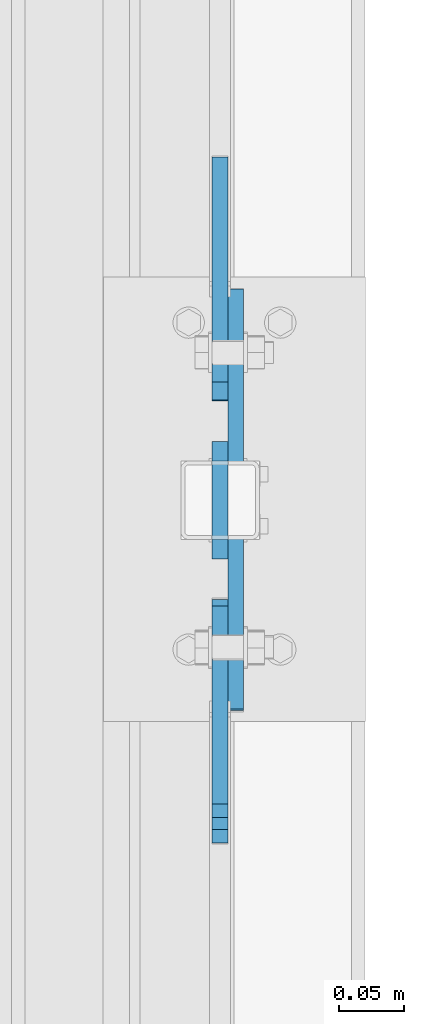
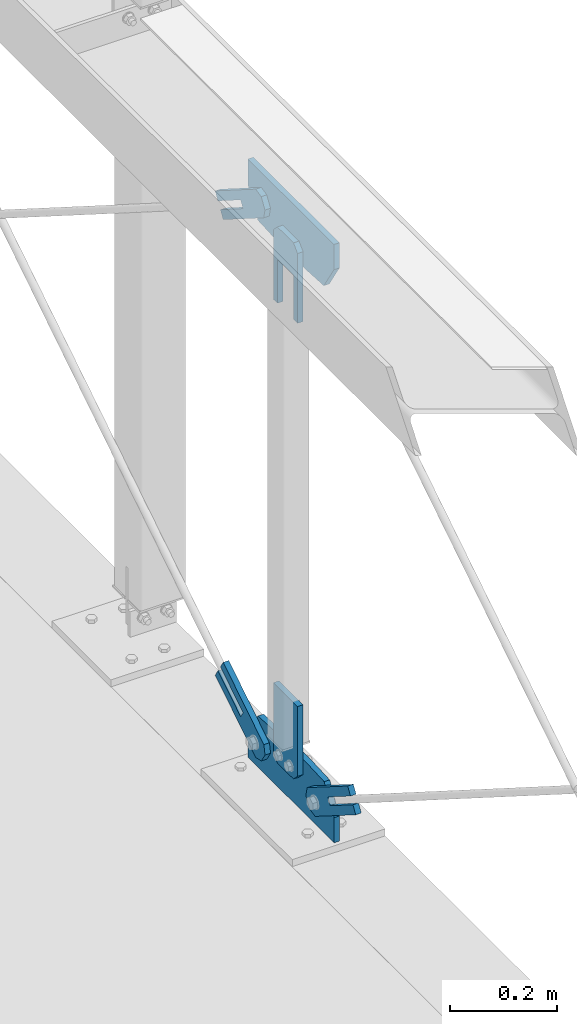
# One storey, part 169 of 271: 7 plates, 6 elements without a shape of their own.
"""IFC2X3 building model written with IfcOpenShell, lengths in millimetres."""

from ifc_helpers import new_model, si_unit, frame, origin_with_axes, place, context, subcontext, project, spatial, polyline, outline, extrude, material, type_object, element, aggregate, save


model = new_model("IFC2X3")

# Units and contexts
model_context = context("Model", 3, precision=1e-05, world=origin_with_axes())
body_context = subcontext(model_context, "Body", "Model", "MODEL_VIEW")
ifc_project = project(units=[si_unit("LENGTHUNIT", "METRE", prefix="MILLI"), si_unit("AREAUNIT", "SQUARE_METRE"), si_unit("VOLUMEUNIT", "CUBIC_METRE"), si_unit("MASSUNIT", "GRAM", prefix="KILO"), si_unit("TIMEUNIT", "SECOND"), si_unit("PLANEANGLEUNIT", "RADIAN"), si_unit("SOLIDANGLEUNIT", "STERADIAN"), si_unit("THERMODYNAMICTEMPERATUREUNIT", "DEGREE_CELSIUS"), si_unit("LUMINOUSINTENSITYUNIT", "LUMEN")], contexts=[model_context])

# Site, building, storey
site_placement = place(None, origin_with_axes())
site = spatial("IfcSite", under=ifc_project, at=site_placement, Name="Undefined", CompositionType="ELEMENT")
building_placement = place(site_placement, origin_with_axes())
building = spatial("IfcBuilding", under=site, at=building_placement, Name="Undefined", CompositionType="ELEMENT")
storey_placement = place(building_placement, origin_with_axes())
storey = spatial("IfcBuildingStorey", under=building, at=storey_placement, Name="Undefined", CompositionType="ELEMENT", Elevation=0.0)

# Assembly, plate
assembly_1_placement = place(storey_placement, origin_with_axes())
assembly_1 = element("IfcElementAssembly", 1, at=assembly_1_placement, inside=storey, AssemblyPlace="NOTDEFINED", PredefinedType="RIGID_FRAME")
ifc_material = material(Name="STEEL/S355JR")
plate_type_1 = type_object("IfcPlateType", Name="BL12*56", PredefinedType="NOTDEFINED")
plate_1_placement = place(assembly_1_placement, frame((12597.7513748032, 2289.7372595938, 33.9195732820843), z_axis=(-1.0, 0.0, 1.38777878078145e-17), x_axis=(0.0, -0.975225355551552, 0.221213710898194)))
plate_1 = element("IfcPlate", 2, at=plate_1_placement, type_object=plate_type_1, material=ifc_material, Name="BLACHA", ObjectType="BL12*56", context=body_context, shape_type="SweptSolid", body=[
    extrude(outline(polyline([(0.0, 0.0), (21.2132034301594, 1.09139364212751e-11), (39.5979804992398, 18.3847751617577), (39.5979804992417, 39.5979804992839), (-86.9741363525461, 166.170089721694), (-100.762718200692, 152.381515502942), (-30.0520401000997, 81.670829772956), (-42.0728530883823, 69.6500167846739), (-112.783531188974, 140.36070251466), (-126.57211303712, 126.57211303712), (0.0, 0.0)])), frame((0.0, 0.0, -6.0), z_axis=(0.0, 0.0, 1.0), x_axis=(1.0, 0.0, 0.0)), (0.0, 0.0, 1.0), 12.0),
])
aggregate(assembly_1, [plate_1])

assembly_2_placement = place(storey_placement, origin_with_axes())
assembly_2 = element("IfcElementAssembly", 3, at=assembly_2_placement, inside=storey, AssemblyPlace="NOTDEFINED", PredefinedType="RIGID_FRAME")
plate_2_placement = place(assembly_2_placement, frame((12597.7513748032, 2098.50717683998, 81.2961428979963), z_axis=(-1.0, 0.0, 1.38777878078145e-17), x_axis=(0.0, 0.221213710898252, -0.975225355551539)))
plate_2 = element("IfcPlate", 4, at=plate_2_placement, type_object=plate_type_1, material=ifc_material, Name="BLACHA", ObjectType="BL12*56", context=body_context, shape_type="SweptSolid", body=[
    extrude(outline(polyline([(0.0, 0.0), (21.2132034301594, 1.09139364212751e-11), (39.5979804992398, 18.3847751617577), (39.5979804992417, 39.5979804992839), (-86.9741363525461, 166.170089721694), (-100.762718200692, 152.381515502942), (-30.0520401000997, 81.670829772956), (-42.0728530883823, 69.6500167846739), (-112.783531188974, 140.36070251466), (-126.57211303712, 126.57211303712), (0.0, 0.0)])), frame((0.0, 0.0, -6.0), z_axis=(0.0, 0.0, 1.0), x_axis=(1.0, 0.0, 0.0)), (0.0, 0.0, 1.0), 12.0),
])
aggregate(assembly_2, [plate_2])

assembly_3_placement = place(storey_placement, origin_with_axes())
assembly_3 = element("IfcElementAssembly", 5, at=assembly_3_placement, inside=storey, AssemblyPlace="NOTDEFINED", PredefinedType="RIGID_FRAME")
plate_3_placement = place(assembly_3_placement, frame((12597.7513748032, 2260.33953235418, 1279.80247590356), z_axis=(-1.0, 0.0, 1.38777878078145e-17), x_axis=(0.0, -0.218952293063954, 0.975735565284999)))
plate_3 = element("IfcPlate", 6, at=plate_3_placement, type_object=plate_type_1, material=ifc_material, Name="BLACHA", ObjectType="BL12*56", context=body_context, shape_type="SweptSolid", body=[
    extrude(outline(polyline([(0.0, 0.0), (21.2132034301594, 1.09139364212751e-11), (39.5979804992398, 18.3847751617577), (39.5979804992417, 39.5979804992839), (-86.9741363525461, 166.170089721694), (-100.762718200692, 152.381515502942), (-30.0520401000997, 81.670829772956), (-42.0728530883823, 69.6500167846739), (-112.783531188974, 140.36070251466), (-126.57211303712, 126.57211303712), (0.0, 0.0)])), frame((0.0, 0.0, -6.0), z_axis=(0.0, 0.0, 1.0), x_axis=(1.0, 0.0, 0.0)), (0.0, 0.0, 1.0), 12.0),
])
aggregate(assembly_3, [plate_3])

# Assembly, plates
assembly_4_placement = place(storey_placement, origin_with_axes())
assembly_4 = element("IfcElementAssembly", 7, at=assembly_4_placement, inside=storey, AssemblyPlace="NOTDEFINED", PredefinedType="RIGID_FRAME")
plate_type_2 = type_object("IfcPlateType", Name="BL12*90", PredefinedType="NOTDEFINED")
plate_4_placement = place(assembly_4_placement, frame((12597.7513748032, 2224.19355050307, 85.2313232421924), z_axis=(-1.0, 0.0, 1.38777878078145e-17), x_axis=(0.0, -0.707106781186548, -0.707106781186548)))
plate_4 = element("IfcPlate", 8, at=plate_4_placement, type_object=plate_type_2, material=ifc_material, Name="BLACHA", ObjectType="BL12*90", context=body_context, shape_type="SweptSolid", body=[
    extrude(outline(polyline([(0.0, 0.0), (21.2132034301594, 1.09139364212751e-11), (63.6396102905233, 42.4264068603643), (63.6396102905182, 63.6396102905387), (-48.7903671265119, 176.069595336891), (-59.0434150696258, 165.816543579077), (-102.176933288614, 122.683029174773), (-112.42997741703, 112.429977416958), (0.0, 0.0)])), frame((0.0, 0.0, -6.0), z_axis=(0.0, 0.0, 1.0), x_axis=(1.0, 0.0, 0.0)), (0.0, 0.0, 1.0), 12.0),
])
plate_5_placement = place(assembly_4_placement, frame((12597.7513748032, 2134.19355050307, 1275.24585413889), z_axis=(-1.0, 0.0, 1.38777878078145e-17), x_axis=(0.0, 0.707106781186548, 0.707106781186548)))
plate_5 = element("IfcPlate", 9, at=plate_5_placement, type_object=plate_type_2, material=ifc_material, Name="BLACHA", ObjectType="BL12*90", context=body_context, shape_type="SweptSolid", body=[
    extrude(outline(polyline([(0.0, 0.0), (21.2132034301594, 1.09139364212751e-11), (63.6396102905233, 42.4264068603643), (63.6396102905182, 63.6396102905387), (-48.7903671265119, 176.069595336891), (-59.0434150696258, 165.816543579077), (11.6672620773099, 95.1058654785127), (-31.4662513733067, 51.9723472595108), (-102.176933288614, 122.683029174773), (-112.42997741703, 112.429977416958), (0.0, 0.0)])), frame((0.0, 0.0, -6.0), z_axis=(0.0, 0.0, 1.0), x_axis=(1.0, 0.0, 0.0)), (0.0, 0.0, 1.0), 12.0),
])
aggregate(assembly_4, [plate_4, plate_5])

# Assembly, plate
assembly_5_placement = place(storey_placement, origin_with_axes())
assembly_5 = element("IfcElementAssembly", 10, at=assembly_5_placement, inside=storey, AssemblyPlace="NOTDEFINED", PredefinedType="RIGID_FRAME")
plate_type_3 = type_object("IfcPlateType", Name="BL12*120", PredefinedType="NOTDEFINED")
plate_6_placement = place(assembly_5_placement, frame((12609.751374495, 2339.99998784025, 4.88853402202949e-12), z_axis=(-1.0, 0.0, 1.38777878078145e-17), x_axis=(0.0, -1.0, 0.0)))
plate_6 = element("IfcPlate", 11, at=plate_6_placement, type_object=plate_type_3, material=ifc_material, Name="BLACHA", ObjectType="BL12*120", context=body_context, shape_type="SweptSolid", body=[
    extrude(outline(polyline([(0.0, 0.0), (321.612884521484, 0.0), (321.612884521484, 57.3216705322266), (284.291198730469, 116.542381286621), (210.806442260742, 120.231323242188), (110.806434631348, 120.231323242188), (37.3216705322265, 116.542381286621), (0.0, 57.3216705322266), (0.0, 0.0)])), frame((0.0, 0.0, -6.0), z_axis=(0.0, 0.0, 1.0), x_axis=(1.0, 0.0, 0.0)), (0.0, 0.0, 1.0), 12.0),
])
aggregate(assembly_5, [plate_6])

assembly_6_placement = place(storey_placement, origin_with_axes())
assembly_6 = element("IfcElementAssembly", 12, at=assembly_6_placement, inside=storey, AssemblyPlace="NOTDEFINED", PredefinedType="RIGID_FRAME")
plate_type_4 = type_object("IfcPlateType", Name="BL12*121", PredefinedType="NOTDEFINED")
plate_7_placement = place(assembly_6_placement, frame((12609.7513748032, 2019.4507765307, 1361.04999995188), z_axis=(-1.0, 0.0, 1.38777878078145e-17), x_axis=(0.0, 1.0, 0.0)))
plate_7 = element("IfcPlate", 13, at=plate_7_placement, type_object=plate_type_4, material=ifc_material, Name="BLACHA", ObjectType="BL12*121", context=body_context, shape_type="SweptSolid", body=[
    extrude(outline(polyline([(0.0, 0.0), (321.064178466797, 0.0), (321.064178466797, 57.4588623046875), (283.605316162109, 116.592895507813), (209.742767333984, 120.804145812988), (109.742774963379, 120.804145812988), (37.4588623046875, 116.592895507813), (9.09494701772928e-13, 57.4588623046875), (0.0, 0.0)])), frame((0.0, 0.0, -6.0), z_axis=(0.0, 0.0, 1.0), x_axis=(1.0, 0.0, 0.0)), (0.0, 0.0, 1.0), 12.0),
])
aggregate(assembly_6, [plate_7])

save(model, "model.ifc")
